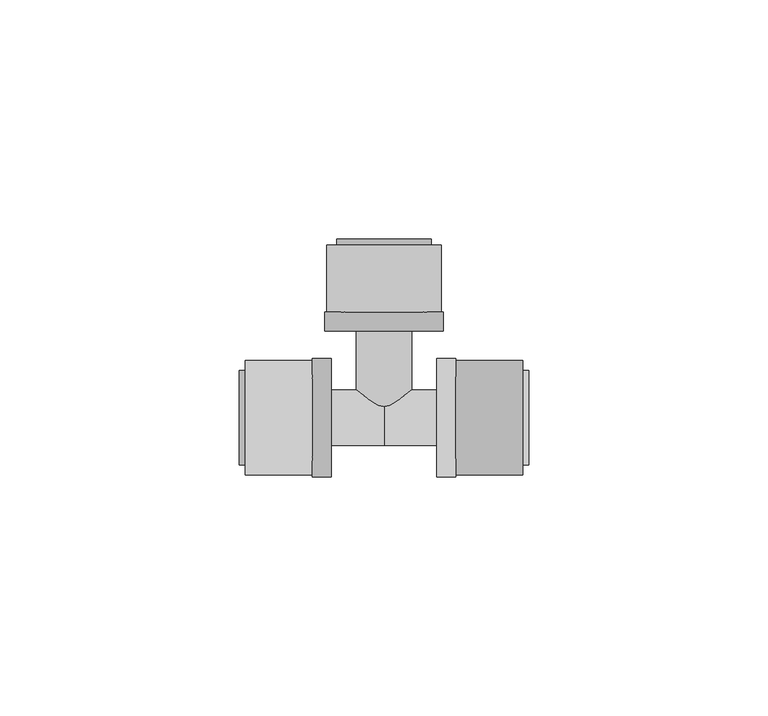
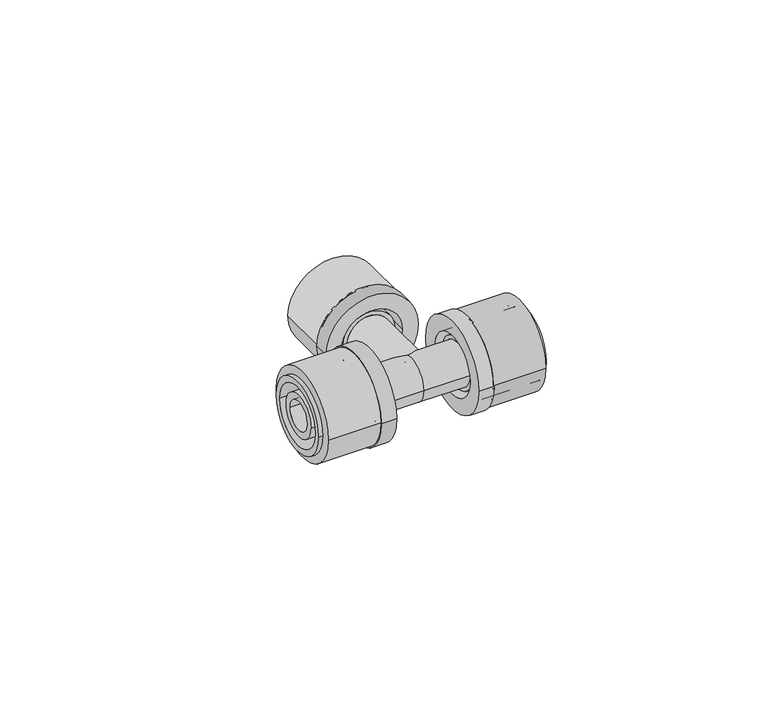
"""IFC4 building model written with IfcOpenShell, lengths in millimetres: pipe fitting geometry, FASTLOC_T-piece_EX+ : FSL T-Piece EX+ AT."""

import ifcopenshell
import ifcopenshell.guid

model = None  # the IFC model being written
_history = None  # IfcOwnerHistory: only IFC2X3 demands one
_inside = {}  # id of a spatial element -> (the spatial element, [elements in it])
_under = {}  # id of a project, library or spatial element -> (it, [spatial elements below it])
_declared = {}  # id of a project -> (the project, [libraries it declares])
_typed = {}  # id of a type object -> (the type object, [elements of that type])
_made_of = {}  # id of a material, layer set ... -> (it, [elements and type objects made of it])


def new_model(schema):
    """Start an empty IFC model of exactly this schema.

    Asked for "IFC4X3", IfcOpenShell would pick the latest addendum, in which some entities
    have other attributes; the version numbers below select the first issue.
    IFC2X3 requires an IfcOwnerHistory on every rooted entity: one is made here for all.
    """
    global model, _history
    if schema == "IFC4X3":
        model = ifcopenshell.file(schema_version=(4, 3, 0, 0))
    else:
        model = ifcopenshell.file(schema=schema)
    _inside.clear()
    _under.clear()
    _declared.clear()
    _typed.clear()
    _made_of.clear()
    _history = None
    if model.schema == "IFC2X3":
        org = make("IfcOrganization", Name="unknown")
        user = make(
            "IfcPersonAndOrganization",
            ThePerson=make("IfcPerson", FamilyName="unknown"),
            TheOrganization=org,
        )
        app = make(
            "IfcApplication",
            ApplicationDeveloper=org,
            Version="unknown",
            ApplicationFullName="unknown",
            ApplicationIdentifier="unknown",
        )
        _history = make(
            "IfcOwnerHistory",
            OwningUser=user,
            OwningApplication=app,
            ChangeAction="ADDED",
            CreationDate=0,
        )
    return model


def make(cls, **values):
    """One entity of the class cls with the attributes given. An attribute that is None is left unset."""
    return model.create_entity(
        cls, **{name: value for name, value in values.items() if value is not None}
    )


def rooted(cls, **values):
    """An entity with a GlobalId (a new one), such as an element, a storey or a relation."""
    return make(cls, GlobalId=ifcopenshell.guid.new(), OwnerHistory=_history, **values)


def si_unit(unit_type, name, prefix=None):
    """IfcSIUnit, for example si_unit("LENGTHUNIT", "METRE", prefix="MILLI")."""
    return make("IfcSIUnit", UnitType=unit_type, Prefix=prefix, Name=name)


def assignment(units):
    """IfcUnitAssignment: the units of a project."""
    return None if units is None else make("IfcUnitAssignment", Units=units)


def point(xyz):
    """IfcCartesianPoint."""
    return None if xyz is None else make("IfcCartesianPoint", Coordinates=xyz)


def direction(xyz):
    """IfcDirection."""
    return None if xyz is None else make("IfcDirection", DirectionRatios=xyz)


def frame(location, z_axis=None, x_axis=None):
    """IfcAxis2Placement3D, a coordinate frame: its origin and axes. An axis left out is left unset."""
    return make(
        "IfcAxis2Placement3D",
        Location=point(location),
        Axis=direction(z_axis),
        RefDirection=direction(x_axis),
    )


def frame_2d(location, x_axis=None):
    """IfcAxis2Placement2D, a coordinate frame in the plane: its origin and x axis."""
    return make(
        "IfcAxis2Placement2D", Location=point(location), RefDirection=direction(x_axis)
    )


def origin():
    """The frame at (0, 0, 0) with its axes left unset."""
    return frame((0.0, 0.0, 0.0))


def origin_2d():
    """The frame at (0, 0) in the plane with its x axis left unset."""
    return frame_2d((0.0, 0.0))


def place(relative_to, where):
    """IfcLocalPlacement: puts the frame where relative to a parent placement (None: the world)."""
    return make(
        "IfcLocalPlacement", PlacementRelTo=relative_to, RelativePlacement=where
    )


def context(
    kind, dimensions, precision=None, world=None, true_north=None, identifier=None
):
    """IfcGeometricRepresentationContext, for example the 3D "Model" context."""
    return make(
        "IfcGeometricRepresentationContext",
        ContextIdentifier=identifier,
        ContextType=kind,
        CoordinateSpaceDimension=dimensions,
        Precision=precision,
        WorldCoordinateSystem=world,
        TrueNorth=true_north,
    )


def project(units=None, contexts=None):
    """IfcProject with its units and contexts."""
    return rooted(
        "IfcProject",
        Name="project",
        RepresentationContexts=contexts,
        UnitsInContext=assignment(units),
    )


def spatial(cls, under=None, at=None, **own):
    """A site, building, storey or space (cls), placed at a placement, below another one or the project."""
    s = rooted(cls, ObjectPlacement=at, **own)
    if under is not None:
        _under.setdefault(under.id(), (under, []))[1].append(s)
    return s


def polyline(points):
    """IfcPolyline through the points."""
    return make("IfcPolyline", Points=[point(p) for p in points])


def circle_curve(where, radius):
    """IfcCircle in the frame where."""
    return make("IfcCircle", Position=where, Radius=radius)


def trimmed(basis, trim1, trim2, sense, master):
    """IfcTrimmedCurve: the piece of a basis curve between two trims."""
    return make(
        "IfcTrimmedCurve",
        BasisCurve=basis,
        Trim1=trim1,
        Trim2=trim2,
        SenseAgreement=sense,
        MasterRepresentation=master,
    )


def segment(curve, same_sense, transition):
    """IfcCompositeCurveSegment."""
    return make(
        "IfcCompositeCurveSegment",
        Transition=transition,
        SameSense=same_sense,
        ParentCurve=curve,
    )


def composite_curve(segments, self_intersect=None):
    """IfcCompositeCurve: segments joined end to end."""
    return make("IfcCompositeCurve", Segments=segments, SelfIntersect=self_intersect)


def outline(outer, holes=None, kind="AREA"):
    """IfcArbitraryClosedProfileDef: a profile drawn as a closed curve; with holes, ...WithVoids."""
    if holes is None:
        return make("IfcArbitraryClosedProfileDef", ProfileType=kind, OuterCurve=outer)
    return make(
        "IfcArbitraryProfileDefWithVoids",
        ProfileType=kind,
        OuterCurve=outer,
        InnerCurves=holes,
    )


def extrude(swept, where, along, depth):
    """IfcExtrudedAreaSolid: the profile swept, set in the frame where, extruded along a direction by depth."""
    return make(
        "IfcExtrudedAreaSolid",
        SweptArea=swept,
        Position=where,
        ExtrudedDirection=direction(along),
        Depth=depth,
    )


def shape(context_of_items, identifier, shape_type, items):
    """IfcShapeRepresentation: the items that make up one representation, for example the "Body"."""
    return make(
        "IfcShapeRepresentation",
        ContextOfItems=context_of_items,
        RepresentationIdentifier=identifier,
        RepresentationType=shape_type,
        Items=items,
    )


def source(mapping_origin, context_of_items, identifier, shape_type, items):
    """IfcRepresentationMap: a shape defined once, which mapped items show again and again."""
    return make(
        "IfcRepresentationMap",
        MappingOrigin=mapping_origin,
        MappedRepresentation=shape(context_of_items, identifier, shape_type, items),
    )


def transform(
    local_origin,
    x_axis=None,
    y_axis=None,
    z_axis=None,
    scale=None,
    scale2=None,
    scale3=None,
    uniform=True,
):
    """IfcCartesianTransformationOperator3D, or its non-uniform kind. x_axis, y_axis, z_axis: its Axis1, 2, 3."""
    if uniform:
        return make(
            "IfcCartesianTransformationOperator3D",
            Axis1=direction(x_axis),
            Axis2=direction(y_axis),
            LocalOrigin=point(local_origin),
            Scale=scale,
            Axis3=direction(z_axis),
        )
    return make(
        "IfcCartesianTransformationOperator3DnonUniform",
        Axis1=direction(x_axis),
        Axis2=direction(y_axis),
        LocalOrigin=point(local_origin),
        Scale=scale,
        Axis3=direction(z_axis),
        Scale2=scale2,
        Scale3=scale3,
    )


def mapped(mapping_source, mapping_target):
    """IfcMappedItem: shows the shape of a source again, moved by a transform."""
    return make(
        "IfcMappedItem", MappingSource=mapping_source, MappingTarget=mapping_target
    )


def made_of(thing, what):
    """Note that an element or type object is made of a material, layer set ...; save() writes the relation."""
    if what is not None:
        _made_of.setdefault(what.id(), (what, []))[1].append(thing)
    return thing


def element(
    cls,
    number,
    at=None,
    inside=None,
    cuts=None,
    type_object=None,
    material=None,
    context=None,
    identifier="Body",
    shape_type=None,
    held_by="IfcProductDefinitionShape",
    body=None,
    shapes=None,
    **own,
):
    """One element of the class cls, such as IfcWall. Its Tag is "e" and its number.

    at: its placement. inside: the storey or other place that contains it. cuts: it is an
    opening in that element (IfcRelVoidsElement). A single representation is given by context,
    identifier, shape_type and body (its items); several are given by shapes. held_by: the class
    of the entity that holds the representations. save() writes the other relations.
    """
    e = rooted(cls, Tag="e%d" % number, ObjectPlacement=at, **own)
    if body is not None:
        shapes = [shape(context, identifier, shape_type, body)]
    if shapes is not None:
        e.Representation = make(held_by, Representations=shapes)
    if inside is not None:
        _inside.setdefault(inside.id(), (inside, []))[1].append(e)
    if cuts is not None:
        rooted(
            "IfcRelVoidsElement", RelatingBuildingElement=cuts, RelatedOpeningElement=e
        )
    if type_object is not None:
        _typed.setdefault(type_object.id(), (type_object, []))[1].append(e)
    return made_of(e, material)


def aggregate(whole, parts):
    """IfcRelAggregates: a whole, such as a stair, and the parts it consists of."""
    return rooted("IfcRelAggregates", RelatingObject=whole, RelatedObjects=parts)


def save(model, path):
    """Write the relations noted so far, then the file.

    IfcRelAggregates (storeys below a building ...), IfcRelContainedInSpatialStructure (elements
    in a storey), IfcRelDefinesByType, IfcRelAssociatesMaterial and IfcRelDeclares: one each for
    every whole, place, type object, material and project.
    """
    for whole, parts in _under.values():
        aggregate(whole, parts)
    for where, things in _inside.values():
        rooted(
            "IfcRelContainedInSpatialStructure",
            RelatedElements=things,
            RelatingStructure=where,
        )
    for kind, things in _typed.values():
        rooted("IfcRelDefinesByType", RelatedObjects=things, RelatingType=kind)
    for what, things in _made_of.values():
        rooted("IfcRelAssociatesMaterial", RelatedObjects=things, RelatingMaterial=what)
    for by, libraries in _declared.values():
        rooted("IfcRelDeclares", RelatingContext=by, RelatedDefinitions=libraries)
    model.write(path)


def plane_surface(at):
    """IfcPlane: the flat surface through the origin of the frame at, square to its z axis."""
    return make("IfcPlane", Position=at)


def cylinder_surface(at, radius):
    """IfcCylindricalSurface: all points at the distance radius from the z axis of the frame at."""
    return make("IfcCylindricalSurface", Position=at, Radius=radius)


def revolved_surface(curve, axis_point, axis_direction):
    """IfcSurfaceOfRevolution: the curve turned about the line through axis_point along axis_direction."""
    return make(
        "IfcSurfaceOfRevolution",
        SweptCurve=make("IfcArbitraryOpenProfileDef", ProfileType="CURVE", Curve=curve),
        AxisPosition=make("IfcAxis1Placement", Location=point(axis_point), Axis=direction(axis_direction)),
    )


def advanced_brep(points, edges, surfaces, faces):
    """IfcAdvancedBrep: a solid bounded by faces that lie on surfaces and meet in shared edges.

    An edge is (start, end): straight between two places in points (the first is 0);
    or (start, end, curve); or (start, end, curve, False) where it runs against its curve.
    A face is (place in surfaces, loops), or (place, loops, False) where it looks against
    its surface's normal. A loop lists edges by number (the first is 1), with a minus sign
    where the edge is run from its end to its start. The first loop is the outer one.
    """
    corners = [point(p) for p in points]
    vertices = [make("IfcVertexPoint", VertexGeometry=c) for c in corners]
    made = []
    for start, end, *more in edges:
        made.append(
            make(
                "IfcEdgeCurve",
                EdgeStart=vertices[start],
                EdgeEnd=vertices[end],
                EdgeGeometry=more[0] if more else make("IfcPolyline", Points=[corners[start], corners[end]]),
                SameSense=more[1] if len(more) > 1 else True,
            )
        )
    hull = []
    for where, loops, *sense in faces:
        bounds = []
        for j, loop in enumerate(loops):
            ring = [make("IfcOrientedEdge", EdgeElement=made[abs(k) - 1], Orientation=k > 0) for k in loop]
            bounds.append(
                make(
                    "IfcFaceOuterBound" if j == 0 else "IfcFaceBound",
                    Bound=make("IfcEdgeLoop", EdgeList=ring),
                    Orientation=True,
                )
            )
        hull.append(make("IfcAdvancedFace", Bounds=bounds, FaceSurface=surfaces[where], SameSense=sense[0] if sense else True))
    return make("IfcAdvancedBrep", Outer=make("IfcClosedShell", CfsFaces=hull))


def pipe_fitting_67dfde5a(model_context):
    return source(origin(), model_context, "Body", "SolidModel", [
        extrude(outline(composite_curve([segment(trimmed(circle_curve(origin_2d(), 12.0), [point((-12.0, 0.0))], [point((12.0, 0.0))], False, "CARTESIAN"), True, "CONTINUOUS"), segment(trimmed(circle_curve(origin_2d(), 12.0), [point((12.0, 0.0))], [point((-12.0, 0.0))], False, "CARTESIAN"), True, "CONTINUOUS")], self_intersect=False), holes=[composite_curve([segment(trimmed(circle_curve(origin_2d(), 8.85), [point((-8.85, 0.0))], [point((8.85, 0.0))], True, "CARTESIAN"), True, "CONTINUOUS"), segment(trimmed(circle_curve(origin_2d(), 8.85), [point((8.85, 0.0))], [point((-8.85, 0.0))], True, "CARTESIAN"), True, "CONTINUOUS")], self_intersect=False)]), frame((15.0, 0.0, 0.0), z_axis=(1.0, 0.0, 0.0), x_axis=(0.0, 1.0, 0.0)), (0.0, 0.0, 1.0), 14.0),
        advanced_brep(
        [(15.0, 12.35, 0.0), (15.0, -12.35, 0.0), (11.0, -12.35, 0.0), (11.0, 12.35, 0.0), (30.3, 9.85, 0.0), (30.3, -9.85, 0.0), (15.0, -9.85, 0.0), (15.0, 9.85, 0.0), (11.0, 8.15, 0.0), (11.0, -8.15, 0.0), (30.3, -8.15, 0.0), (30.3, 8.15, 0.0)],
        [
            (0, 1, circle_curve(frame((15.0, 0.0, 0.0), z_axis=(-1.0, 0.0, 0.0), x_axis=(0.0, -1.0, 0.0)), 12.35)),
            (1, 2),
            (2, 3, circle_curve(frame((11.0, 0.0, 0.0), z_axis=(1.0, 0.0, 0.0), x_axis=(0.0, -1.0, 0.0)), 12.35)),
            (3, 0),
            (4, 5, circle_curve(frame((30.3, 0.0, 0.0), z_axis=(-1.0, 0.0, 0.0), x_axis=(0.0, -1.0, 0.0)), 9.85)),
            (5, 6),
            (6, 7, circle_curve(frame((15.0, 0.0, 0.0), z_axis=(1.0, 0.0, 0.0), x_axis=(0.0, -1.0, 0.0)), 9.85)),
            (7, 4),
            (8, 9, circle_curve(frame((11.0, 0.0, 0.0), z_axis=(-1.0, 0.0, 0.0), x_axis=(0.0, -1.0, 0.0)), 8.15)),
            (9, 10),
            (10, 11, circle_curve(frame((30.3, 0.0, 0.0), z_axis=(1.0, 0.0, 0.0), x_axis=(0.0, -1.0, 0.0)), 8.15)),
            (11, 8),
            (1, 0, circle_curve(frame((15.0, 0.0, 0.0), z_axis=(-1.0, 0.0, 0.0), x_axis=(0.0, 1.0, 0.0)), 12.35)),
            (3, 2, circle_curve(frame((11.0, 0.0, 0.0), z_axis=(1.0, 0.0, 0.0), x_axis=(0.0, 1.0, 0.0)), 12.35)),
            (6, 7, circle_curve(frame((15.0, 0.0, 0.0), z_axis=(-1.0, 0.0, 0.0), x_axis=(0.0, 1.0, 0.0)), 9.85)),
            (5, 4, circle_curve(frame((30.3, 0.0, 0.0), z_axis=(-1.0, 0.0, 0.0), x_axis=(0.0, 1.0, 0.0)), 9.85)),
            (10, 11, circle_curve(frame((30.3, 0.0, 0.0), z_axis=(-1.0, 0.0, 0.0), x_axis=(0.0, 1.0, 0.0)), 8.15)),
            (9, 8, circle_curve(frame((11.0, 0.0, 0.0), z_axis=(-1.0, 0.0, 0.0), x_axis=(0.0, 1.0, 0.0)), 8.15)),
        ],
        [
            cylinder_surface(frame((11.0, 0.0, 0.0), z_axis=(1.0, 0.0, 0.0), x_axis=(0.0, -1.0, 0.0)), 12.35),
            cylinder_surface(frame((11.0, 0.0, 0.0), z_axis=(1.0, 0.0, 0.0), x_axis=(0.0, -1.0, 0.0)), 9.85),
            revolved_surface(polyline([(30.3, -8.15, 0.0), (11.0, -8.15, 0.0)]), (11.0, 0.0, 0.0), (1.0, 0.0, 0.0)),
            cylinder_surface(frame((11.0, 0.0, 0.0), z_axis=(1.0, 0.0, 0.0), x_axis=(0.0, 1.0, 0.0)), 12.35),
            plane_surface(frame((15.0, 0.0, 0.0), z_axis=(1.0, 0.0, 0.0), x_axis=(0.0, 1.0, 0.0))),
            cylinder_surface(frame((11.0, 0.0, 0.0), z_axis=(1.0, 0.0, 0.0), x_axis=(0.0, 1.0, 0.0)), 9.85),
            plane_surface(frame((30.3, 0.0, 0.0), z_axis=(1.0, 0.0, 0.0), x_axis=(0.0, 1.0, 0.0))),
            revolved_surface(polyline([(30.3, 8.15, 0.0), (11.0, 8.15, 0.0)]), (11.0, 0.0, 0.0), (1.0, 0.0, 0.0)),
            plane_surface(frame((11.0, 0.0, 0.0), z_axis=(-1.0, 0.0, 0.0), x_axis=(0.0, 1.0, 0.0))),
        ],
        [
            (0, [[1, 2, 3, 4]]),
            (1, [[5, 6, 7, 8]]),
            (2, [[9, 10, 11, 12]]),
            (3, [[13, -4, 14, -2]]),
            (4, [[-13, -1], [15, -7]]),
            (5, [[16, -8, -15, -6]]),
            (6, [[-16, -5], [17, -11]]),
            (7, [[18, -12, -17, -10]]),
            (8, [[-14, -3], [-18, -9]]),
        ],
    ),
        extrude(outline(composite_curve([segment(trimmed(circle_curve(origin_2d(), 12.0), [point((12.0, 0.0))], [point((-12.0, 0.0))], False, "CARTESIAN"), True, "CONTINUOUS"), segment(trimmed(circle_curve(origin_2d(), 12.0), [point((-12.0, 0.0))], [point((12.0, 0.0))], False, "CARTESIAN"), True, "CONTINUOUS")], self_intersect=False), holes=[composite_curve([segment(trimmed(circle_curve(origin_2d(), 8.85), [point((8.85, 0.0))], [point((-8.85, 0.0))], True, "CARTESIAN"), True, "CONTINUOUS"), segment(trimmed(circle_curve(origin_2d(), 8.85), [point((-8.85, 0.0))], [point((8.85, 0.0))], True, "CARTESIAN"), True, "CONTINUOUS")], self_intersect=False)]), frame((-29.0, 0.0, 0.0), z_axis=(1.0, 0.0, 0.0), x_axis=(0.0, 1.0, 0.0)), (0.0, 0.0, 1.0), 14.0),
        advanced_brep(
        [(-15.0, -12.35, 0.0), (-15.0, 12.35, 0.0), (-11.0, 12.35, 0.0), (-11.0, -12.35, 0.0), (-30.3, -9.85, 0.0), (-30.3, 9.85, 0.0), (-15.0, 9.85, 0.0), (-15.0, -9.85, 0.0), (-11.0, -8.15, 0.0), (-11.0, 8.15, 0.0), (-30.3, 8.15, 0.0), (-30.3, -8.15, 0.0)],
        [
            (0, 1, circle_curve(frame((-15.0, 0.0, 0.0), z_axis=(1.0, 0.0, 0.0), x_axis=(0.0, 1.0, 0.0)), 12.35)),
            (1, 2),
            (2, 3, circle_curve(frame((-11.0, 0.0, 0.0), z_axis=(-1.0, 0.0, 0.0), x_axis=(0.0, 1.0, 0.0)), 12.35)),
            (3, 0),
            (4, 5, circle_curve(frame((-30.3, 0.0, 0.0), z_axis=(1.0, 0.0, 0.0), x_axis=(0.0, 1.0, 0.0)), 9.85)),
            (5, 6),
            (6, 7, circle_curve(frame((-15.0, 0.0, 0.0), z_axis=(-1.0, 0.0, 0.0), x_axis=(0.0, 1.0, 0.0)), 9.85)),
            (7, 4),
            (8, 9, circle_curve(frame((-11.0, 0.0, 0.0), z_axis=(1.0, 0.0, 0.0), x_axis=(0.0, 1.0, 0.0)), 8.15)),
            (9, 10),
            (10, 11, circle_curve(frame((-30.3, 0.0, 0.0), z_axis=(-1.0, 0.0, 0.0), x_axis=(0.0, 1.0, 0.0)), 8.15)),
            (11, 8),
            (1, 0, circle_curve(frame((-15.0, 0.0, 0.0), z_axis=(1.0, 0.0, 0.0), x_axis=(0.0, -1.0, 0.0)), 12.35)),
            (3, 2, circle_curve(frame((-11.0, 0.0, 0.0), z_axis=(-1.0, 0.0, 0.0), x_axis=(0.0, -1.0, 0.0)), 12.35)),
            (6, 7, circle_curve(frame((-15.0, 0.0, 0.0), z_axis=(1.0, 0.0, 0.0), x_axis=(0.0, -1.0, 0.0)), 9.85)),
            (5, 4, circle_curve(frame((-30.3, 0.0, 0.0), z_axis=(1.0, 0.0, 0.0), x_axis=(0.0, -1.0, 0.0)), 9.85)),
            (10, 11, circle_curve(frame((-30.3, 0.0, 0.0), z_axis=(1.0, 0.0, 0.0), x_axis=(0.0, -1.0, 0.0)), 8.15)),
            (9, 8, circle_curve(frame((-11.0, 0.0, 0.0), z_axis=(1.0, 0.0, 0.0), x_axis=(0.0, -1.0, 0.0)), 8.15)),
        ],
        [
            cylinder_surface(frame((-11.0, 0.0, 0.0), z_axis=(-1.0, 0.0, 0.0), x_axis=(0.0, 1.0, 0.0)), 12.35),
            cylinder_surface(frame((-11.0, 0.0, 0.0), z_axis=(-1.0, 0.0, 0.0), x_axis=(0.0, 1.0, 0.0)), 9.85),
            revolved_surface(polyline([(-30.3, 8.15, 0.0), (-11.0, 8.15, 0.0)]), (-11.0, 0.0, 0.0), (-1.0, 0.0, 0.0)),
            cylinder_surface(frame((-11.0, 0.0, 0.0), z_axis=(-1.0, 0.0, 0.0), x_axis=(0.0, -1.0, 0.0)), 12.35),
            plane_surface(frame((-15.0, 0.0, 0.0), z_axis=(-1.0, 0.0, 0.0), x_axis=(0.0, -1.0, 0.0))),
            cylinder_surface(frame((-11.0, 0.0, 0.0), z_axis=(-1.0, 0.0, 0.0), x_axis=(0.0, -1.0, 0.0)), 9.85),
            plane_surface(frame((-30.3, 0.0, 0.0), z_axis=(-1.0, 0.0, 0.0), x_axis=(0.0, -1.0, 0.0))),
            revolved_surface(polyline([(-30.3, -8.15, 0.0), (-11.0, -8.15, 0.0)]), (-11.0, 0.0, 0.0), (-1.0, 0.0, 0.0)),
            plane_surface(frame((-11.0, 0.0, 0.0), z_axis=(1.0, 0.0, 0.0), x_axis=(0.0, -1.0, 0.0))),
        ],
        [
            (0, [[1, 2, 3, 4]]),
            (1, [[5, 6, 7, 8]]),
            (2, [[9, 10, 11, 12]]),
            (3, [[13, -4, 14, -2]]),
            (4, [[-13, -1], [15, -7]]),
            (5, [[16, -8, -15, -6]]),
            (6, [[-16, -5], [17, -11]]),
            (7, [[18, -12, -17, -10]]),
            (8, [[-14, -3], [-18, -9]]),
        ],
    ),
        extrude(outline(composite_curve([segment(trimmed(circle_curve(origin_2d(), 12.0), [point((0.0, 12.0))], [point((0.0, -12.0))], False, "CARTESIAN"), True, "CONTINUOUS"), segment(trimmed(circle_curve(origin_2d(), 12.0), [point((0.0, -12.0))], [point((0.0, 12.0))], False, "CARTESIAN"), True, "CONTINUOUS")], self_intersect=False), holes=[composite_curve([segment(trimmed(circle_curve(origin_2d(), 8.85), [point((0.0, 8.85))], [point((0.0, -8.85))], True, "CARTESIAN"), True, "CONTINUOUS"), segment(trimmed(circle_curve(origin_2d(), 8.85), [point((0.0, -8.85))], [point((0.0, 8.85))], True, "CARTESIAN"), True, "CONTINUOUS")], self_intersect=False)]), frame((0.0, 22.1, 0.0), z_axis=(0.0, 1.0, 0.0), x_axis=(0.0, 0.0, 1.0)), (0.0, 0.0, 1.0), 14.0),
        advanced_brep(
        [(-12.35, 22.1, 0.0), (12.35, 22.1, 0.0), (12.35, 18.1, 0.0), (-12.35, 18.1, 0.0), (-9.85, 37.4, 0.0), (9.85, 37.4, 0.0), (9.85, 22.1, 0.0), (-9.85, 22.1, 0.0), (-8.15, 18.1, 0.0), (8.15, 18.1, 0.0), (8.15, 37.4, 0.0), (-8.15, 37.4, 0.0)],
        [
            (0, 1, circle_curve(frame((0.0, 22.1, 0.0), z_axis=(0.0, -1.0, 0.0), x_axis=(1.0, 0.0, 0.0)), 12.35)),
            (1, 2),
            (2, 3, circle_curve(frame((0.0, 18.1, 0.0), z_axis=(0.0, 1.0, 0.0), x_axis=(1.0, 0.0, 0.0)), 12.35)),
            (3, 0),
            (4, 5, circle_curve(frame((0.0, 37.4, 0.0), z_axis=(0.0, -1.0, 0.0), x_axis=(1.0, 0.0, 0.0)), 9.85)),
            (5, 6),
            (6, 7, circle_curve(frame((0.0, 22.1, 0.0), z_axis=(0.0, 1.0, 0.0), x_axis=(1.0, 0.0, 0.0)), 9.85)),
            (7, 4),
            (8, 9, circle_curve(frame((0.0, 18.1, 0.0), z_axis=(0.0, -1.0, 0.0), x_axis=(1.0, 0.0, 0.0)), 8.15)),
            (9, 10),
            (10, 11, circle_curve(frame((0.0, 37.4, 0.0), z_axis=(0.0, 1.0, 0.0), x_axis=(1.0, 0.0, 0.0)), 8.15)),
            (11, 8),
            (1, 0, circle_curve(frame((0.0, 22.1, 0.0), z_axis=(0.0, -1.0, 0.0), x_axis=(-1.0, 0.0, 0.0)), 12.35)),
            (3, 2, circle_curve(frame((0.0, 18.1, 0.0), z_axis=(0.0, 1.0, 0.0), x_axis=(-1.0, 0.0, 0.0)), 12.35)),
            (6, 7, circle_curve(frame((0.0, 22.1, 0.0), z_axis=(0.0, -1.0, 0.0), x_axis=(-1.0, 0.0, 0.0)), 9.85)),
            (5, 4, circle_curve(frame((0.0, 37.4, 0.0), z_axis=(0.0, -1.0, 0.0), x_axis=(-1.0, 0.0, 0.0)), 9.85)),
            (10, 11, circle_curve(frame((0.0, 37.4, 0.0), z_axis=(0.0, -1.0, 0.0), x_axis=(-1.0, 0.0, 0.0)), 8.15)),
            (9, 8, circle_curve(frame((0.0, 18.1, 0.0), z_axis=(0.0, -1.0, 0.0), x_axis=(-1.0, 0.0, 0.0)), 8.15)),
        ],
        [
            cylinder_surface(frame((0.0, 18.1, 0.0), z_axis=(0.0, 1.0, 0.0), x_axis=(1.0, 0.0, 0.0)), 12.35),
            cylinder_surface(frame((0.0, 18.1, 0.0), z_axis=(0.0, 1.0, 0.0), x_axis=(1.0, 0.0, 0.0)), 9.85),
            revolved_surface(polyline([(8.15, 37.4, 0.0), (8.15, 18.1, 0.0)]), (0.0, 18.1, 0.0), (0.0, 1.0, 0.0)),
            cylinder_surface(frame((0.0, 18.1, 0.0), z_axis=(0.0, 1.0, 0.0), x_axis=(-1.0, 0.0, 0.0)), 12.35),
            plane_surface(frame((0.0, 22.1, 0.0), z_axis=(0.0, 1.0, 0.0), x_axis=(-1.0, 0.0, 0.0))),
            cylinder_surface(frame((0.0, 18.1, 0.0), z_axis=(0.0, 1.0, 0.0), x_axis=(-1.0, 0.0, 0.0)), 9.85),
            plane_surface(frame((0.0, 37.4, 0.0), z_axis=(0.0, 1.0, 0.0), x_axis=(-1.0, 0.0, 0.0))),
            revolved_surface(polyline([(-8.15, 37.4, 0.0), (-8.15, 18.1, 0.0)]), (0.0, 18.1, 0.0), (0.0, 1.0, 0.0)),
            plane_surface(frame((0.0, 18.1, 0.0), z_axis=(0.0, -1.0, 0.0), x_axis=(-1.0, 0.0, 0.0))),
        ],
        [
            (0, [[1, 2, 3, 4]]),
            (1, [[5, 6, 7, 8]]),
            (2, [[9, 10, 11, 12]]),
            (3, [[13, -4, 14, -2]]),
            (4, [[-13, -1], [15, -7]]),
            (5, [[16, -8, -15, -6]]),
            (6, [[-16, -5], [17, -11]]),
            (7, [[18, -12, -17, -10]]),
            (8, [[-14, -3], [-18, -9]]),
        ],
    ),
        advanced_brep(
        [(0.0, 5.8, 0.0), (0.0, -5.8, 0.0), (-12.29, -5.8, 0.0), (-12.29, 5.8, 0.0), (12.29, 5.8, 0.0), (12.29, -5.8, 0.0), (15.0, 6.9, 0.0), (15.0, -6.9, 0.0), (12.29, -6.9, 0.0), (12.29, 6.9, 0.0), (30.0, 5.8, 0.0), (30.0, -5.8, 0.0), (15.0, -5.8, 0.0), (15.0, 5.8, 0.0), (-30.0, 3.95, 0.0), (-30.0, -3.95, 0.0), (30.0, -3.95, 0.0), (30.0, 3.95, 0.0), (-15.0, 5.8, 0.0), (-15.0, -5.8, 0.0), (-30.0, -5.8, 0.0), (-30.0, 5.8, 0.0), (-12.29, 6.9, 0.0), (-12.29, -6.9, 0.0), (-15.0, -6.9, 0.0), (-15.0, 6.9, 0.0)],
        [
            (0, 1, circle_curve(frame((0.0, 0.0, 0.0), z_axis=(-1.0, 0.0, 0.0), x_axis=(0.0, -1.0, 0.0)), 5.8)),
            (1, 2),
            (2, 3, circle_curve(frame((-12.29, 0.0, 0.0), z_axis=(1.0, 0.0, 0.0), x_axis=(0.0, -1.0, 0.0)), 5.8)),
            (3, 0),
            (4, 5, circle_curve(frame((12.29, 0.0, 0.0), z_axis=(-1.0, 0.0, 0.0), x_axis=(0.0, -1.0, 0.0)), 5.8)),
            (5, 1),
            (0, 4),
            (6, 7, circle_curve(frame((15.0, 0.0, 0.0), z_axis=(-1.0, 0.0, 0.0), x_axis=(0.0, -1.0, 0.0)), 6.9)),
            (7, 8),
            (8, 9, circle_curve(frame((12.29, 0.0, 0.0), z_axis=(1.0, 0.0, 0.0), x_axis=(0.0, -1.0, 0.0)), 6.9)),
            (9, 6),
            (10, 11, circle_curve(frame((30.0, 0.0, 0.0), z_axis=(-1.0, 0.0, 0.0), x_axis=(0.0, -1.0, 0.0)), 5.8)),
            (11, 12),
            (12, 13, circle_curve(frame((15.0, 0.0, 0.0), z_axis=(1.0, 0.0, 0.0), x_axis=(0.0, -1.0, 0.0)), 5.8)),
            (13, 10),
            (14, 15, circle_curve(frame((-30.0, 0.0, 0.0), z_axis=(-1.0, 0.0, 0.0), x_axis=(0.0, -1.0, 0.0)), 3.95)),
            (15, 16),
            (16, 17, circle_curve(frame((30.0, 0.0, 0.0), z_axis=(1.0, 0.0, 0.0), x_axis=(0.0, -1.0, 0.0)), 3.95)),
            (17, 14),
            (18, 19, circle_curve(frame((-15.0, 0.0, 0.0), z_axis=(-1.0, 0.0, 0.0), x_axis=(0.0, -1.0, 0.0)), 5.8)),
            (19, 20),
            (20, 21, circle_curve(frame((-30.0, 0.0, 0.0), z_axis=(1.0, 0.0, 0.0), x_axis=(0.0, -1.0, 0.0)), 5.8)),
            (21, 18),
            (22, 23, circle_curve(frame((-12.29, 0.0, 0.0), z_axis=(-1.0, 0.0, 0.0), x_axis=(0.0, -1.0, 0.0)), 6.9)),
            (23, 24),
            (24, 25, circle_curve(frame((-15.0, 0.0, 0.0), z_axis=(1.0, 0.0, 0.0), x_axis=(0.0, -1.0, 0.0)), 6.9)),
            (25, 22),
            (22, 23, circle_curve(frame((-12.29, 0.0, 0.0), z_axis=(1.0, 0.0, 0.0), x_axis=(0.0, 1.0, 0.0)), 6.9)),
            (2, 3, circle_curve(frame((-12.29, 0.0, 0.0), z_axis=(-1.0, 0.0, 0.0), x_axis=(0.0, 1.0, 0.0)), 5.8)),
            (1, 0, circle_curve(frame((0.0, 0.0, 0.0), z_axis=(-1.0, 0.0, 0.0), x_axis=(0.0, 1.0, 0.0)), 5.8)),
            (5, 4, circle_curve(frame((12.29, 0.0, 0.0), z_axis=(-1.0, 0.0, 0.0), x_axis=(0.0, 1.0, 0.0)), 5.8)),
            (8, 9, circle_curve(frame((12.29, 0.0, 0.0), z_axis=(-1.0, 0.0, 0.0), x_axis=(0.0, 1.0, 0.0)), 6.9)),
            (7, 6, circle_curve(frame((15.0, 0.0, 0.0), z_axis=(-1.0, 0.0, 0.0), x_axis=(0.0, 1.0, 0.0)), 6.9)),
            (12, 13, circle_curve(frame((15.0, 0.0, 0.0), z_axis=(-1.0, 0.0, 0.0), x_axis=(0.0, 1.0, 0.0)), 5.8)),
            (11, 10, circle_curve(frame((30.0, 0.0, 0.0), z_axis=(-1.0, 0.0, 0.0), x_axis=(0.0, 1.0, 0.0)), 5.8)),
            (16, 17, circle_curve(frame((30.0, 0.0, 0.0), z_axis=(-1.0, 0.0, 0.0), x_axis=(0.0, 1.0, 0.0)), 3.95)),
            (15, 14, circle_curve(frame((-30.0, 0.0, 0.0), z_axis=(-1.0, 0.0, 0.0), x_axis=(0.0, 1.0, 0.0)), 3.95)),
            (20, 21, circle_curve(frame((-30.0, 0.0, 0.0), z_axis=(-1.0, 0.0, 0.0), x_axis=(0.0, 1.0, 0.0)), 5.8)),
            (19, 18, circle_curve(frame((-15.0, 0.0, 0.0), z_axis=(-1.0, 0.0, 0.0), x_axis=(0.0, 1.0, 0.0)), 5.8)),
            (24, 25, circle_curve(frame((-15.0, 0.0, 0.0), z_axis=(-1.0, 0.0, 0.0), x_axis=(0.0, 1.0, 0.0)), 6.9)),
        ],
        [
            cylinder_surface(frame((0.0, 0.0, 0.0), z_axis=(1.0, 0.0, 0.0), x_axis=(0.0, -1.0, 0.0)), 5.8),
            cylinder_surface(frame((0.0, 0.0, 0.0), z_axis=(1.0, 0.0, 0.0), x_axis=(0.0, -1.0, 0.0)), 6.9),
            revolved_surface(polyline([(30.0, -3.95, 0.0), (-30.0, -3.95, 0.0)]), (0.0, 0.0, 0.0), (1.0, 0.0, 0.0)),
            plane_surface(frame((-12.29, 0.0, 0.0), z_axis=(1.0, 0.0, 0.0), x_axis=(0.0, 1.0, 0.0))),
            cylinder_surface(frame((0.0, 0.0, 0.0), z_axis=(1.0, 0.0, 0.0), x_axis=(0.0, 1.0, 0.0)), 5.8),
            plane_surface(frame((12.29, 0.0, 0.0), z_axis=(-1.0, 0.0, 0.0), x_axis=(0.0, 1.0, 0.0))),
            cylinder_surface(frame((0.0, 0.0, 0.0), z_axis=(1.0, 0.0, 0.0), x_axis=(0.0, 1.0, 0.0)), 6.9),
            plane_surface(frame((15.0, 0.0, 0.0), z_axis=(1.0, 0.0, 0.0), x_axis=(0.0, 1.0, 0.0))),
            plane_surface(frame((30.0, 0.0, 0.0), z_axis=(1.0, 0.0, 0.0), x_axis=(0.0, 1.0, 0.0))),
            revolved_surface(polyline([(30.0, 3.95, 0.0), (-30.0, 3.95, 0.0)]), (0.0, 0.0, 0.0), (1.0, 0.0, 0.0)),
            plane_surface(frame((-30.0, 0.0, 0.0), z_axis=(-1.0, 0.0, 0.0), x_axis=(0.0, 1.0, 0.0))),
            plane_surface(frame((-15.0, 0.0, 0.0), z_axis=(-1.0, 0.0, 0.0), x_axis=(0.0, 1.0, 0.0))),
        ],
        [
            (0, [[1, 2, 3, 4]]),
            (0, [[5, 6, -1, 7]]),
            (1, [[8, 9, 10, 11]]),
            (0, [[12, 13, 14, 15]]),
            (2, [[16, 17, 18, 19]]),
            (0, [[20, 21, 22, 23]]),
            (1, [[24, 25, 26, 27]]),
            (3, [[28, -24], [29, -3]]),
            (4, [[30, -4, -29, -2]]),
            (4, [[31, -7, -30, -6]]),
            (5, [[32, -10], [-31, -5]]),
            (6, [[33, -11, -32, -9]]),
            (7, [[-33, -8], [34, -14]]),
            (4, [[35, -15, -34, -13]]),
            (8, [[-35, -12], [36, -18]]),
            (9, [[37, -19, -36, -17]]),
            (10, [[38, -22], [-37, -16]]),
            (4, [[39, -23, -38, -21]]),
            (11, [[40, -26], [-39, -20]]),
            (6, [[-28, -27, -40, -25]]),
        ],
    ),
        advanced_brep(
        [(3.95, 37.1, 0.0), (-3.95, 37.1, 0.0), (-3.95, 0.0, 0.0), (3.95, 0.0, 0.0), (5.8, 0.0, 0.0), (-5.8, 0.0, 0.0), (-5.8, 19.39, 0.0), (5.8, 19.39, 0.0), (6.9, 19.39, 0.0), (-6.9, 19.39, 0.0), (-6.9, 22.1, 0.0), (6.9, 22.1, 0.0), (5.8, 22.1, 0.0), (-5.8, 22.1, 0.0), (-5.8, 37.1, 0.0), (5.8, 37.1, 0.0)],
        [
            (0, 1, circle_curve(frame((0.0, 37.1, 0.0), z_axis=(0.0, 1.0, 0.0), x_axis=(-1.0, 0.0, 0.0)), 3.95)),
            (1, 2),
            (2, 3, circle_curve(frame((0.0, 0.0, 0.0), z_axis=(0.0, -1.0, 0.0), x_axis=(-1.0, 0.0, 0.0)), 3.95)),
            (3, 0),
            (4, 5, circle_curve(frame((0.0, 0.0, 0.0), z_axis=(0.0, 1.0, 0.0), x_axis=(-1.0, 0.0, 0.0)), 5.8)),
            (5, 6),
            (6, 7, circle_curve(frame((0.0, 19.39, 0.0), z_axis=(0.0, -1.0, 0.0), x_axis=(-1.0, 0.0, 0.0)), 5.8)),
            (7, 4),
            (8, 9, circle_curve(frame((0.0, 19.39, 0.0), z_axis=(0.0, 1.0, 0.0), x_axis=(-1.0, 0.0, 0.0)), 6.9)),
            (9, 10),
            (10, 11, circle_curve(frame((0.0, 22.1, 0.0), z_axis=(0.0, -1.0, 0.0), x_axis=(-1.0, 0.0, 0.0)), 6.9)),
            (11, 8),
            (12, 13, circle_curve(frame((0.0, 22.1, 0.0), z_axis=(0.0, 1.0, 0.0), x_axis=(-1.0, 0.0, 0.0)), 5.8)),
            (13, 14),
            (14, 15, circle_curve(frame((0.0, 37.1, 0.0), z_axis=(0.0, -1.0, 0.0), x_axis=(-1.0, 0.0, 0.0)), 5.8)),
            (15, 12),
            (1, 0, circle_curve(frame((0.0, 37.1, 0.0), z_axis=(0.0, 1.0, 0.0), x_axis=(1.0, 0.0, 0.0)), 3.95)),
            (3, 2, circle_curve(frame((0.0, 0.0, 0.0), z_axis=(0.0, -1.0, 0.0), x_axis=(1.0, 0.0, 0.0)), 3.95)),
            (4, 5, circle_curve(frame((0.0, 0.0, 0.0), z_axis=(0.0, -1.0, 0.0), x_axis=(1.0, 0.0, 0.0)), 5.8)),
            (7, 6, circle_curve(frame((0.0, 19.39, 0.0), z_axis=(0.0, -1.0, 0.0), x_axis=(1.0, 0.0, 0.0)), 5.8)),
            (8, 9, circle_curve(frame((0.0, 19.39, 0.0), z_axis=(0.0, -1.0, 0.0), x_axis=(1.0, 0.0, 0.0)), 6.9)),
            (11, 10, circle_curve(frame((0.0, 22.1, 0.0), z_axis=(0.0, -1.0, 0.0), x_axis=(1.0, 0.0, 0.0)), 6.9)),
            (12, 13, circle_curve(frame((0.0, 22.1, 0.0), z_axis=(0.0, -1.0, 0.0), x_axis=(1.0, 0.0, 0.0)), 5.8)),
            (15, 14, circle_curve(frame((0.0, 37.1, 0.0), z_axis=(0.0, -1.0, 0.0), x_axis=(1.0, 0.0, 0.0)), 5.8)),
        ],
        [
            revolved_surface(polyline([(-3.95, 0.0, 0.0), (-3.95, 37.1, 0.0)]), (0.0, 0.0, 0.0), (0.0, -1.0, 0.0)),
            cylinder_surface(frame((0.0, 0.0, 0.0), z_axis=(0.0, -1.0, 0.0), x_axis=(-1.0, 0.0, 0.0)), 5.8),
            cylinder_surface(frame((0.0, 0.0, 0.0), z_axis=(0.0, -1.0, 0.0), x_axis=(-1.0, 0.0, 0.0)), 6.9),
            revolved_surface(polyline([(3.95, 0.0, 0.0), (3.95, 37.1, 0.0)]), (0.0, 0.0, 0.0), (0.0, -1.0, 0.0)),
            plane_surface(frame((0.0, 0.0, 0.0), z_axis=(0.0, -1.0, 0.0), x_axis=(1.0, 0.0, 0.0))),
            cylinder_surface(frame((0.0, 0.0, 0.0), z_axis=(0.0, -1.0, 0.0), x_axis=(1.0, 0.0, 0.0)), 5.8),
            plane_surface(frame((0.0, 19.39, 0.0), z_axis=(0.0, -1.0, 0.0), x_axis=(1.0, 0.0, 0.0))),
            cylinder_surface(frame((0.0, 0.0, 0.0), z_axis=(0.0, -1.0, 0.0), x_axis=(1.0, 0.0, 0.0)), 6.9),
            plane_surface(frame((0.0, 22.1, 0.0), z_axis=(0.0, 1.0, 0.0), x_axis=(1.0, 0.0, 0.0))),
            plane_surface(frame((0.0, 37.1, 0.0), z_axis=(0.0, 1.0, 0.0), x_axis=(1.0, 0.0, 0.0))),
        ],
        [
            (0, [[1, 2, 3, 4]]),
            (1, [[5, 6, 7, 8]]),
            (2, [[9, 10, 11, 12]]),
            (1, [[13, 14, 15, 16]]),
            (3, [[17, -4, 18, -2]]),
            (4, [[19, -5], [-18, -3]]),
            (5, [[-19, -8, 20, -6]]),
            (6, [[21, -9], [-20, -7]]),
            (7, [[-21, -12, 22, -10]]),
            (8, [[-22, -11], [23, -13]]),
            (5, [[-23, -16, 24, -14]]),
            (9, [[-24, -15], [-17, -1]]),
        ],
    ),
    ])


if __name__ == "__main__":
    model = new_model("IFC4")
    model_context = context("Model", 3, world=origin())
    ifc_project = project(units=[si_unit("LENGTHUNIT", "METRE", prefix="MILLI")], contexts=[model_context])
    site = spatial("IfcSite", under=ifc_project)
    building = spatial("IfcBuilding", under=site)
    placement = place(None, origin())
    pipe_fitting_shape = pipe_fitting_67dfde5a(model_context)
    element("IfcPipeFitting", 1, ObjectType="FASTLOC_T-piece_EX+ : FSL T-Piece EX+ AT", at=placement, inside=building, context=model_context, shape_type="MappedRepresentation", body=[
        mapped(pipe_fitting_shape, transform((0.0, 0.0, 0.0), x_axis=(1.0, 0.0, 0.0), y_axis=(0.0, 1.0, 0.0), z_axis=(0.0, 0.0, 1.0))),
    ])
    save(model, "model.ifc")
